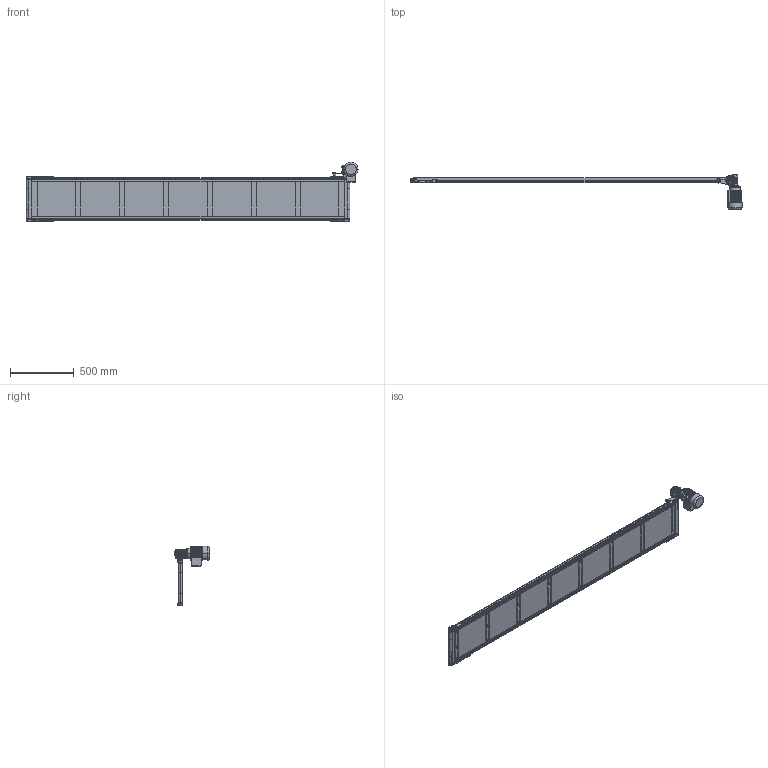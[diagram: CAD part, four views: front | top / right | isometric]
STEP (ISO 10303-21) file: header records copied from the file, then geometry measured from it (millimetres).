
FILE_DESCRIPTION (( 'STEP AP214' ), '1' );
FILE_NAME ('NASTRO_RETTILINEO_TAPPETO.step', '2026-04-20T08:07:56', ( 'Utente Windows' ), ( '' ), 'SwSTEP 2.0', 'SolidWorks 2024', '' );
FILE_SCHEMA (( 'AUTOMOTIVE_DESIGN' ));
Length unit declared in the file: millimetre
Products named in the file (34): 084.301.000 VITI ALUSIC_084.301.002; RONDELLE UNI 6592_6.4x12.5 UNI 6592; VITI TSEI UNI 5933_M5x12 UNI 5933; 084.301.000 VITI ALUSIC_084.301.011; VITI TE UNI 5739_M6x10 UNI 5739; TELAIO_30_STANDARD_Default<A macchina>; 084.302.000 DADI ALUSIC 13x13-1_084.302.007; 084.802.008; CH03P_DX; VITI TE UNI 5739_M8x16 UNI 5739; BLOCCO_RINVIO_30_STANDARD_DX; NASTRO_RETTILINEO_TAPPETO; 084.303.001; VITE_DADO_M5X12; 084.802.062; 084.802.027; 084.807.005; VITE_RONDELLA_M8X20; GRANI A PUNTA PIATTA UNI 5923_M8x20 UNI 5923; RULLO_30_TRAINO_30_DX; RONDELLE FASCIA LARGA UNI 6593_8.4x24 UNI 6593; BLOCCO_TRAINO_30_STANDARD_SX_MOTORE A SINISTRA; TAPPETO_STANDARD; CUSCINETTI CB_CB 202; BLOCCO_TRAINO_30_STANDARD_30_DX_MOTORE A SINISTRA; 084.302.000 DADI ALUSIC 13x13-1_084.302.004; 084.801.025; 084.301.000 VITI ALUSIC_084.301.003; 62012RSBOMB_62012RSBOMB; BLOCCO_RINVIO_30_STANDARD_SX; LAMIERA_STANDARD; 084.801.027 dx; 084.801.027 sx; RULLO_30_RINVIO
Assembly tree (83 placements, depth 3):
  NASTRO_RETTILINEO_TAPPETO
    TAPPETO_STANDARD
    TELAIO_30_STANDARD_Default<A macchina>
    LAMIERA_STANDARD  x2
    RULLO_30_TRAINO_30_DX
    BLOCCO_TRAINO_30_STANDARD_30_DX_MOTORE A SINISTRA
      084.802.027
      084.807.005
      084.801.027 dx
      084.801.025
      CUSCINETTI CB_CB 202
      084.301.000 VITI ALUSIC_084.301.002  x2
      084.302.000 DADI ALUSIC 13x13-1_084.302.004  x2
      084.301.000 VITI ALUSIC_084.301.011  x2
      VITI TE UNI 5739_M8x16 UNI 5739
      RONDELLE FASCIA LARGA UNI 6593_8.4x24 UNI 6593
      GRANI A PUNTA PIATTA UNI 5923_M8x20 UNI 5923
      RONDELLE UNI 6592_6.4x12.5 UNI 6592  x4
      VITI TE UNI 5739_M6x10 UNI 5739  x4
      084.802.062
    BLOCCO_TRAINO_30_STANDARD_SX_MOTORE A SINISTRA
      084.801.027 sx
      62012RSBOMB_62012RSBOMB
      084.302.000 DADI ALUSIC 13x13-1_084.302.004  x2
      084.301.000 VITI ALUSIC_084.301.002  x2
    RULLO_30_RINVIO
    BLOCCO_RINVIO_30_STANDARD_SX
      084.802.008
      084.801.027 sx
      62012RSBOMB_62012RSBOMB
      084.302.000 DADI ALUSIC 13x13-1_084.302.004  x3
      084.301.000 VITI ALUSIC_084.301.002  x2
      084.301.000 VITI ALUSIC_084.301.003
    BLOCCO_RINVIO_30_STANDARD_DX
      084.802.008
      084.801.027 dx
      62012RSBOMB_62012RSBOMB
      084.302.000 DADI ALUSIC 13x13-1_084.302.004  x3
      084.301.000 VITI ALUSIC_084.301.002  x2
      084.301.000 VITI ALUSIC_084.301.003
    VITE_RONDELLA_M8X20  x13
      084.303.001
      084.301.000 VITI ALUSIC_084.301.003
    VITE_DADO_M5X12  x8
      084.302.000 DADI ALUSIC 13x13-1_084.302.007
      VITI TSEI UNI 5933_M5x12 UNI 5933
    CH03P_DX
Bounding box: 2597 x 273 x 464 mm (x, y, z)
Volume: 9758656.4 mm3; surface area: 7073541.7 mm2
Topology: 117 solids, 119 shells, 2915 faces, 7221 edges, 4649 vertices
Faces by surface type: plane 1562, cylinder 911, cone 222, torus 150, bspline 50, sphere 20
Entity records: 50672 total; most frequent: CARTESIAN_POINT 9673, DIRECTION 8621, ORIENTED_EDGE 8064, EDGE_CURVE 4032, AXIS2_PLACEMENT_3D 3097, VERTEX_POINT 2607, LINE 2427, VECTOR 2427
